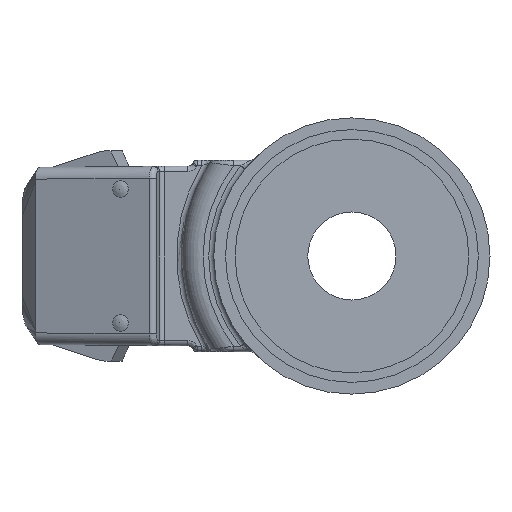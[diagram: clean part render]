
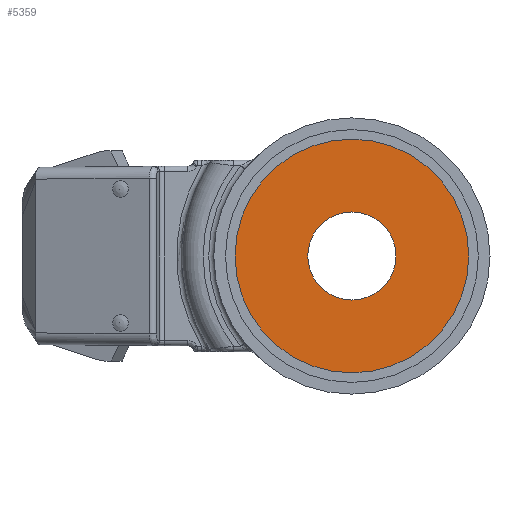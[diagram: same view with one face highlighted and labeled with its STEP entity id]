
A CAD part, front view. The second image highlights one B-rep face of the part: STEP entity #5359.
In plain terms, the highlighted planar face has unit normal (0, -1, 0).
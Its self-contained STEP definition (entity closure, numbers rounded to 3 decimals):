
#4551=FACE_BOUND('',#6719,.T.);
#4552=FACE_BOUND('',#6720,.T.);
#4844=PLANE('',#14962);
#5359=ADVANCED_FACE('',(#4551,#4552),#4844,.T.);
#6719=EDGE_LOOP('',(#9674));
#6720=EDGE_LOOP('',(#9675));
#7219=CIRCLE('',#14960,4.15);
#7220=CIRCLE('',#14961,11.);
#9674=ORIENTED_EDGE('',*,*,#12329,.F.);
#9675=ORIENTED_EDGE('',*,*,#12330,.F.);
#11009=VERTEX_POINT('',#22033);
#11010=VERTEX_POINT('',#22035);
#12329=EDGE_CURVE('',#11009,#11009,#7219,.T.);
#12330=EDGE_CURVE('',#11010,#11010,#7220,.T.);
#14960=AXIS2_PLACEMENT_3D('',#22032,#17428,#17429);
#14961=AXIS2_PLACEMENT_3D('',#22034,#17430,#17431);
#14962=AXIS2_PLACEMENT_3D('',#22036,#17432,#17433);
#17428=DIRECTION('',(0.,-1.,0.));
#17429=DIRECTION('',(0.,0.,-1.));
#17430=DIRECTION('',(0.,1.,0.));
#17431=DIRECTION('',(0.,0.,1.));
#17432=DIRECTION('',(0.,-1.,0.));
#17433=DIRECTION('',(0.,0.,-1.));
#22032=CARTESIAN_POINT('',(-139.387,80.443,0.));
#22033=CARTESIAN_POINT('',(-139.387,80.443,-4.15));
#22034=CARTESIAN_POINT('',(-139.387,80.443,0.));
#22035=CARTESIAN_POINT('',(-139.387,80.443,11.));
#22036=CARTESIAN_POINT('',(-139.387,80.443,0.));
